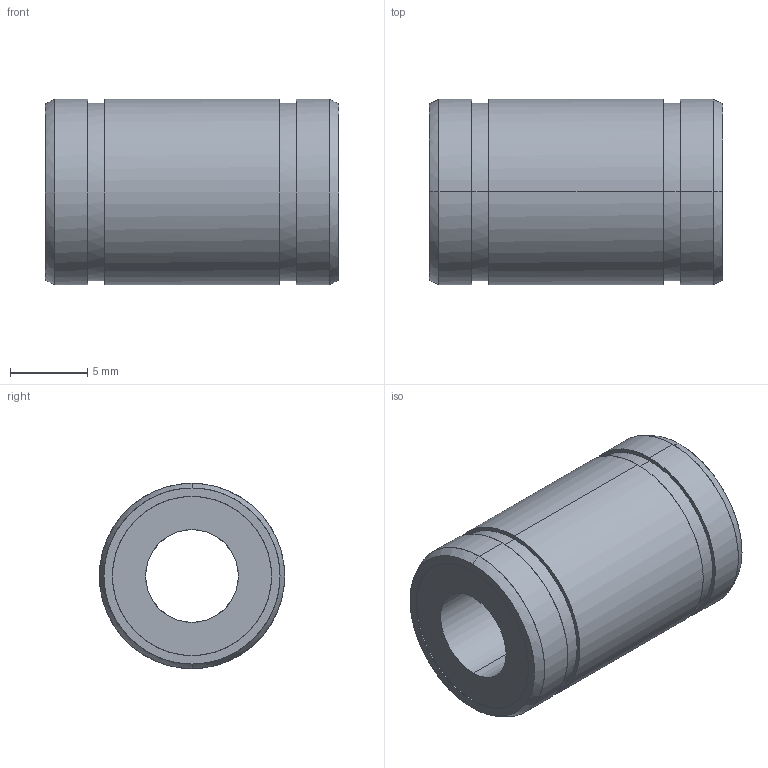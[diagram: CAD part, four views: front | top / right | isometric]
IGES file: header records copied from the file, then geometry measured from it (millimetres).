
Global section: file name: No Iges File Name specified; native system: AutoDesk Inventor R10; preprocessor: AutoDesk Inventor Iges Exporter R10; author: No Author specified; organization: No Organization specified; date: 20101208.094629; units: millimetre
Bounding box: 19 x 12 x 12 mm (x, y, z)
Surface area: 1262.1 mm2 (no closed solid volume)
Topology: 0 solids, 0 shells, 28 faces, 184 edges, 184 vertices
Faces by surface type: bspline 28
